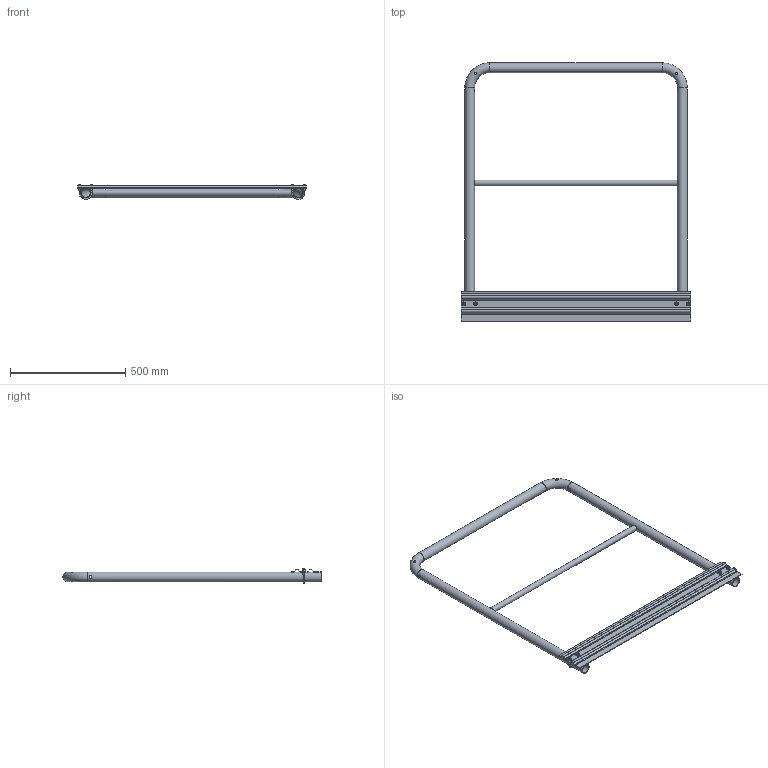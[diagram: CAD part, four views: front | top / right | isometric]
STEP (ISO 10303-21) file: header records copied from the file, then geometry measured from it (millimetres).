
FILE_DESCRIPTION((''),'2;1');
FILE_NAME('S:\Användarkataloger\AndreasA\Mina Inventor filer\Räcken\STEP\modul_ind_slist_1000-1100.stp','2010-09-07T13:18:54',('AndreasA'),(''),'Autodesk Inventor 2011','Autodesk Inventor 2011','');
FILE_SCHEMA(('AUTOMOTIVE_DESIGN { 1 0 10303 214 1 1 1 1 }'));
Length unit declared in the file: millimetre
Products named in the file (9): modul_ind_slist_1000-1100; modul_ind_1000-1100; handledare_modul_1000-1100; mellanliggare_modul_1000; sparklist_k130_modul_1000; bygelskruv_U42_kpl; bygelskruv_U42; SS 3576 8; ISO 4032 M8
Assembly tree (11 placements, depth 3):
  modul_ind_slist_1000-1100
    modul_ind_1000-1100
      handledare_modul_1000-1100
      mellanliggare_modul_1000
    sparklist_k130_modul_1000
    bygelskruv_U42_kpl  x2
      bygelskruv_U42
      SS 3576 8
      ISO 4032 M8
Bounding box: 996 x 1121.2 x 64.92 mm (x, y, z)
Volume: 1279227.5 mm3; surface area: 1208682.7 mm2
Topology: 13 solids, 13 shells, 148 faces, 350 edges, 224 vertices
Faces by surface type: plane 66, cylinder 52, cone 24, torus 6
Full cylindrical faces by diameter (mm): 6.647 x4, 7 x4, 8 x4, 8.4 x4, 10 x4, 11 x8, 16 x4, 21 x1, 25 x1, 38.4 x3, 42.4 x3
Entity records: 3275 total; most frequent: CARTESIAN_POINT 1136, DIRECTION 414, ORIENTED_EDGE 324, AXIS2_PLACEMENT_3D 174, EDGE_CURVE 162, EDGE_LOOP 158, VERTEX_POINT 128, FACE_OUTER_BOUND 86
